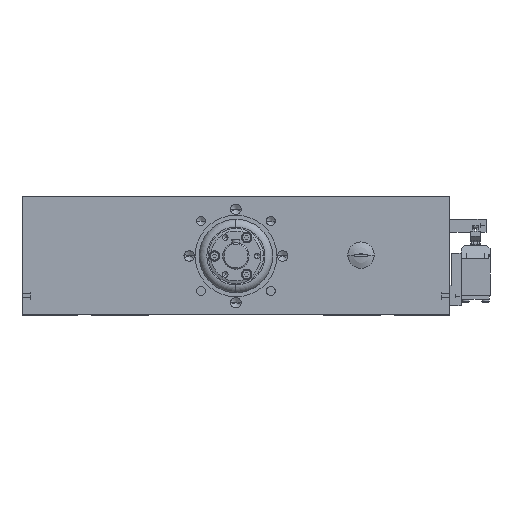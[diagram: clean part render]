
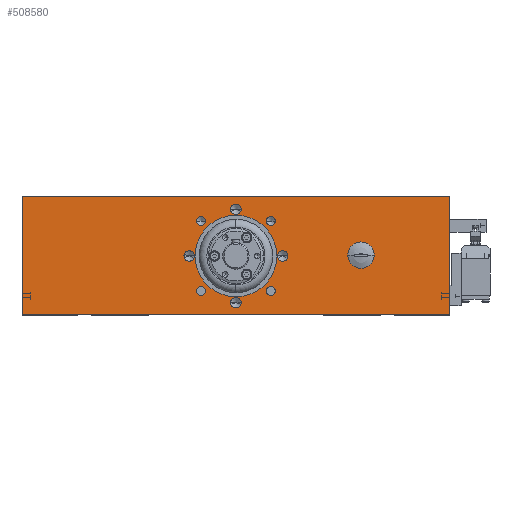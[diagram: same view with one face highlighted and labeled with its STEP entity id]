
A CAD part, front view. The second image highlights one B-rep face of the part: STEP entity #508580.
In plain terms, the highlighted planar face has unit normal (0, -1, 0) as drawn and (-1, 0, 0) by its records, which use the part's own axes.
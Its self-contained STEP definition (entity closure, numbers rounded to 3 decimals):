
#476380=CARTESIAN_POINT('',(-566.5,-1045.308,278.812));
#476390=VERTEX_POINT('',#476380);
#476420=CARTESIAN_POINT('',(-566.5,-1045.308,304.214));
#476430=DIRECTION('',(0.,0.,1.));
#476440=VECTOR('',#476430,1.);
#476450=LINE('',#476420,#476440);
#476460=CARTESIAN_POINT('',(-566.5,-1045.308,368.512));
#476470=VERTEX_POINT('',#476460);
#476480=EDGE_CURVE('',#476390,#476470,#476450,.T.);
#487790=CARTESIAN_POINT('',(-566.5,-922.308,323.512));
#487800=VERTEX_POINT('',#487790);
#487890=CARTESIAN_POINT('',(-566.5,-914.308,323.512));
#487900=VERTEX_POINT('',#487890);
#487930=CARTESIAN_POINT('',(-566.5,-918.308,323.512));
#487940=DIRECTION('',(-1.,0.,0.));
#487950=DIRECTION('',(0.,1.,0.));
#487960=AXIS2_PLACEMENT_3D('',#487930,#487940,#487950);
#487970=CIRCLE('',#487960,4.);
#487980=EDGE_CURVE('',#487800,#487900,#487970,.T.);
#488280=CARTESIAN_POINT('',(-566.5,-913.808,323.512));
#488290=VERTEX_POINT('',#488280);
#488320=CARTESIAN_POINT('',(-566.5,-882.808,323.512));
#488330=DIRECTION('',(-1.,0.,0.));
#488340=DIRECTION('',(0.,-1.,0.));
#488350=AXIS2_PLACEMENT_3D('',#488320,#488330,#488340);
#488360=CIRCLE('',#488350,31.);
#488370=CARTESIAN_POINT('',(-566.5,-851.808,323.512));
#488380=VERTEX_POINT('',#488370);
#488390=EDGE_CURVE('',#488380,#488290,#488360,.T.);
#489930=CARTESIAN_POINT('',(-566.5,-720.308,368.512));
#489940=VERTEX_POINT('',#489930);
#489970=CARTESIAN_POINT('',(-566.5,-720.308,304.214));
#489980=DIRECTION('',(0.,0.,-1.));
#489990=VECTOR('',#489980,1.);
#490000=LINE('',#489970,#489990);
#490010=CARTESIAN_POINT('',(-566.5,-720.308,278.812));
#490020=VERTEX_POINT('',#490010);
#490030=EDGE_CURVE('',#489940,#490020,#490000,.T.);
#490560=CARTESIAN_POINT('',(-566.5,-851.308,323.512));
#490570=VERTEX_POINT('',#490560);
#490660=CARTESIAN_POINT('',(-566.5,-843.308,323.512));
#490670=VERTEX_POINT('',#490660);
#490700=CARTESIAN_POINT('',(-566.5,-847.308,323.512));
#490710=DIRECTION('',(-1.,0.,0.));
#490720=DIRECTION('',(0.,1.,0.));
#490730=AXIS2_PLACEMENT_3D('',#490700,#490710,#490720);
#490740=CIRCLE('',#490730,4.);
#490750=EDGE_CURVE('',#490570,#490670,#490740,.T.);
#490910=CARTESIAN_POINT('',(-566.5,-912.708,297.012));
#490920=VERTEX_POINT('',#490910);
#491080=CARTESIAN_POINT('',(-566.5,-905.908,297.012));
#491090=VERTEX_POINT('',#491080);
#491120=CARTESIAN_POINT('',(-566.5,-909.308,297.012));
#491130=DIRECTION('',(-1.,0.,0.));
#491140=DIRECTION('',(0.,1.,0.));
#491150=AXIS2_PLACEMENT_3D('',#491120,#491130,#491140);
#491160=CIRCLE('',#491150,3.4);
#491170=EDGE_CURVE('',#490920,#491090,#491160,.T.);
#492030=CARTESIAN_POINT('',(-566.5,-859.708,297.012));
#492040=VERTEX_POINT('',#492030);
#492200=CARTESIAN_POINT('',(-566.5,-852.908,297.012));
#492210=VERTEX_POINT('',#492200);
#492240=CARTESIAN_POINT('',(-566.5,-856.308,297.012));
#492250=DIRECTION('',(-1.,0.,0.));
#492260=DIRECTION('',(0.,1.,0.));
#492270=AXIS2_PLACEMENT_3D('',#492240,#492250,#492260);
#492280=CIRCLE('',#492270,3.4);
#492290=EDGE_CURVE('',#492040,#492210,#492280,.T.);
#493360=CARTESIAN_POINT('',(-566.5,-859.708,350.012));
#493370=VERTEX_POINT('',#493360);
#493530=CARTESIAN_POINT('',(-566.5,-852.908,350.012));
#493540=VERTEX_POINT('',#493530);
#493570=CARTESIAN_POINT('',(-566.5,-856.308,350.012));
#493580=DIRECTION('',(-1.,0.,0.));
#493590=DIRECTION('',(0.,1.,0.));
#493600=AXIS2_PLACEMENT_3D('',#493570,#493580,#493590);
#493610=CIRCLE('',#493600,3.4);
#493620=EDGE_CURVE('',#493370,#493540,#493610,.T.);
#494660=CARTESIAN_POINT('',(-566.5,-912.708,350.012));
#494670=VERTEX_POINT('',#494660);
#494830=CARTESIAN_POINT('',(-566.5,-905.908,350.012));
#494840=VERTEX_POINT('',#494830);
#494870=CARTESIAN_POINT('',(-566.5,-909.308,350.012));
#494880=DIRECTION('',(-1.,0.,0.));
#494890=DIRECTION('',(0.,1.,0.));
#494900=AXIS2_PLACEMENT_3D('',#494870,#494880,#494890);
#494910=CIRCLE('',#494900,3.4);
#494920=EDGE_CURVE('',#494670,#494840,#494910,.T.);
#497460=CARTESIAN_POINT('',(-566.5,-886.808,288.012));
#497470=VERTEX_POINT('',#497460);
#497630=CARTESIAN_POINT('',(-566.5,-878.808,288.012));
#497640=VERTEX_POINT('',#497630);
#497670=CARTESIAN_POINT('',(-566.5,-882.808,288.012));
#497680=DIRECTION('',(-1.,0.,0.));
#497690=DIRECTION('',(0.,1.,0.));
#497700=AXIS2_PLACEMENT_3D('',#497670,#497680,#497690);
#497710=CIRCLE('',#497700,4.);
#497720=EDGE_CURVE('',#497470,#497640,#497710,.T.);
#498120=CARTESIAN_POINT('',(-566.5,-886.808,359.012));
#498130=VERTEX_POINT('',#498120);
#498290=CARTESIAN_POINT('',(-566.5,-878.808,359.012));
#498300=VERTEX_POINT('',#498290);
#498330=CARTESIAN_POINT('',(-566.5,-882.808,359.012));
#498340=DIRECTION('',(-1.,0.,0.));
#498350=DIRECTION('',(0.,1.,0.));
#498360=AXIS2_PLACEMENT_3D('',#498330,#498340,#498350);
#498370=CIRCLE('',#498360,4.);
#498380=EDGE_CURVE('',#498130,#498300,#498370,.T.);
#507770=CARTESIAN_POINT('',(-566.5,-796.956,304.214));
#507780=DIRECTION('',(-1.,0.,0.));
#507790=DIRECTION('',(0.,-1.,0.));
#507800=AXIS2_PLACEMENT_3D('',#507770,#507780,#507790);
#507810=PLANE('',#507800);
#507820=EDGE_CURVE('',#492210,#492040,#492280,.T.);
#507830=ORIENTED_EDGE('',*,*,#507820,.F.);
#507840=ORIENTED_EDGE('',*,*,#492290,.F.);
#507850=EDGE_LOOP('',(#507840,#507830));
#507860=FACE_BOUND('',#507850,.T.);
#507870=EDGE_CURVE('',#493540,#493370,#493610,.T.);
#507880=ORIENTED_EDGE('',*,*,#507870,.F.);
#507890=ORIENTED_EDGE('',*,*,#493620,.F.);
#507900=EDGE_LOOP('',(#507890,#507880));
#507910=FACE_BOUND('',#507900,.T.);
#507920=EDGE_CURVE('',#494840,#494670,#494910,.T.);
#507930=ORIENTED_EDGE('',*,*,#507920,.F.);
#507940=ORIENTED_EDGE('',*,*,#494920,.F.);
#507950=EDGE_LOOP('',(#507940,#507930));
#507960=FACE_BOUND('',#507950,.T.);
#507970=EDGE_CURVE('',#491090,#490920,#491160,.T.);
#507980=ORIENTED_EDGE('',*,*,#507970,.F.);
#507990=ORIENTED_EDGE('',*,*,#491170,.F.);
#508000=EDGE_LOOP('',(#507990,#507980));
#508010=FACE_BOUND('',#508000,.T.);
#508020=EDGE_CURVE('',#497640,#497470,#497710,.T.);
#508030=ORIENTED_EDGE('',*,*,#508020,.F.);
#508040=ORIENTED_EDGE('',*,*,#497720,.F.);
#508050=EDGE_LOOP('',(#508040,#508030));
#508060=FACE_BOUND('',#508050,.T.);
#508070=EDGE_CURVE('',#498300,#498130,#498370,.T.);
#508080=ORIENTED_EDGE('',*,*,#508070,.F.);
#508090=ORIENTED_EDGE('',*,*,#498380,.F.);
#508100=EDGE_LOOP('',(#508090,#508080));
#508110=FACE_BOUND('',#508100,.T.);
#508120=EDGE_CURVE('',#487900,#487800,#487970,.T.);
#508130=ORIENTED_EDGE('',*,*,#508120,.F.);
#508140=ORIENTED_EDGE('',*,*,#487980,.F.);
#508150=EDGE_LOOP('',(#508140,#508130));
#508160=FACE_BOUND('',#508150,.T.);
#508170=EDGE_CURVE('',#490670,#490570,#490740,.T.);
#508180=ORIENTED_EDGE('',*,*,#508170,.F.);
#508190=ORIENTED_EDGE('',*,*,#490750,.F.);
#508200=EDGE_LOOP('',(#508190,#508180));
#508210=FACE_BOUND('',#508200,.T.);
#508220=CARTESIAN_POINT('',(-566.5,-977.808,324.186));
#508230=DIRECTION('',(-1.,0.,0.));
#508240=DIRECTION('',(0.,-1.,0.));
#508250=AXIS2_PLACEMENT_3D('',#508220,#508230,#508240);
#508260=CIRCLE('',#508250,10.);
#508270=CARTESIAN_POINT('',(-566.5,-987.808,324.186));
#508280=VERTEX_POINT('',#508270);
#508290=CARTESIAN_POINT('',(-566.5,-967.808,324.186));
#508300=VERTEX_POINT('',#508290);
#508310=EDGE_CURVE('',#508280,#508300,#508260,.T.);
#508320=ORIENTED_EDGE('',*,*,#508310,.F.);
#508330=EDGE_CURVE('',#508300,#508280,#508260,.T.);
#508340=ORIENTED_EDGE('',*,*,#508330,.F.);
#508350=EDGE_LOOP('',(#508340,#508320));
#508360=FACE_BOUND('',#508350,.T.);
#508370=EDGE_CURVE('',#488290,#488380,#488360,.T.);
#508380=ORIENTED_EDGE('',*,*,#508370,.F.);
#508390=ORIENTED_EDGE('',*,*,#488390,.F.);
#508400=EDGE_LOOP('',(#508390,#508380));
#508410=FACE_BOUND('',#508400,.T.);
#508420=ORIENTED_EDGE('',*,*,#490030,.T.);
#508430=CARTESIAN_POINT('',(-566.5,-796.956,368.512));
#508440=DIRECTION('',(0.,-1.,0.));
#508450=VECTOR('',#508440,1.);
#508460=LINE('',#508430,#508450);
#508470=EDGE_CURVE('',#489940,#476470,#508460,.T.);
#508480=ORIENTED_EDGE('',*,*,#508470,.F.);
#508490=ORIENTED_EDGE('',*,*,#476480,.T.);
#508500=CARTESIAN_POINT('',(-566.5,-796.956,278.812));
#508510=DIRECTION('',(0.,1.,0.));
#508520=VECTOR('',#508510,1.);
#508530=LINE('',#508500,#508520);
#508540=EDGE_CURVE('',#476390,#490020,#508530,.T.);
#508550=ORIENTED_EDGE('',*,*,#508540,.F.);
#508560=EDGE_LOOP('',(#508550,#508490,#508480,#508420));
#508570=FACE_OUTER_BOUND('',#508560,.T.);
#508580=ADVANCED_FACE('',(#507860,#507910,#507960,#508010,#508060,
#508110,#508160,#508210,#508360,#508410,#508570),#507810,.T.);
